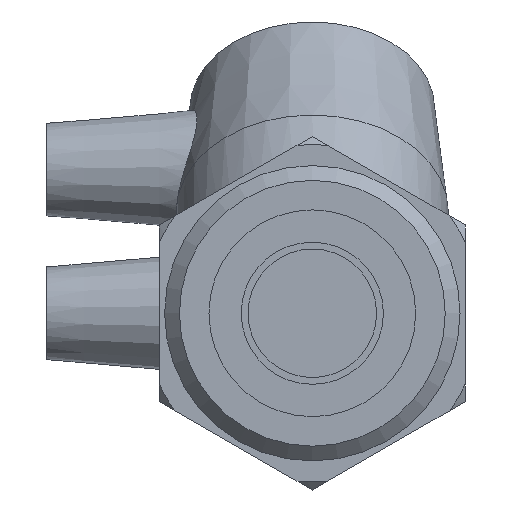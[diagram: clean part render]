
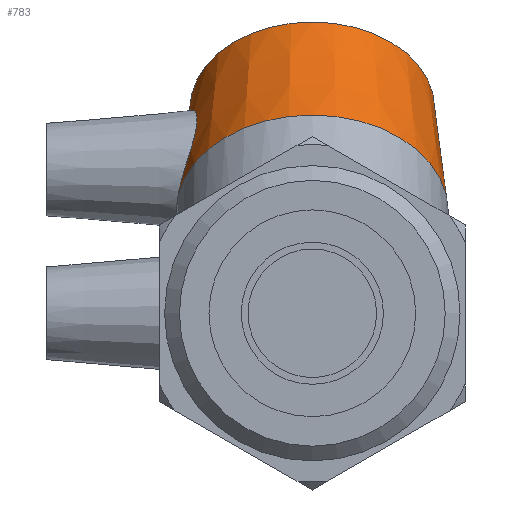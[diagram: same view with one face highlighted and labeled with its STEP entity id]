
A CAD part, left-side view. The second image highlights one B-rep face of the part: STEP entity #783.
In plain terms, the highlighted conical face has half-angle 5.348 degrees and reference radius 20.9 mm.
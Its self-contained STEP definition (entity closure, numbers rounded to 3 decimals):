
#15=B_SPLINE_CURVE_WITH_KNOTS('',3,(#1400,#1401,#1402,#1403,#1404,#1405,
#1406,#1407,#1408,#1409,#1410,#1411,#1412,#1413,#1414,#1415,#1416,#1417,
#1418,#1419,#1420,#1421,#1422,#1423,#1424,#1425,#1426,#1427,#1428,#1429,
#1430,#1431,#1432,#1433),.UNSPECIFIED.,.T.,.F.,(4,2,2,2,2,2,2,2,2,2,2,2,
2,2,2,2,4),(0.,0.35,0.7,1.054,1.407,
1.761,2.114,2.465,2.815,3.199,
3.584,3.957,4.33,4.703,5.076,
5.461,5.846),.UNSPECIFIED.);
#141=FACE_BOUND('',#285,.T.);
#142=FACE_BOUND('',#286,.T.);
#202=FACE_OUTER_BOUND('',#284,.T.);
#284=EDGE_LOOP('',(#689));
#285=EDGE_LOOP('',(#690));
#286=EDGE_LOOP('',(#691));
#347=CIRCLE('',#874,22.);
#351=CIRCLE('',#885,19.8);
#420=VERTEX_POINT('',#1395);
#421=VERTEX_POINT('',#1399);
#425=VERTEX_POINT('',#1445);
#513=EDGE_CURVE('',#420,#420,#347,.T.);
#515=EDGE_CURVE('',#421,#421,#15,.T.);
#519=EDGE_CURVE('',#425,#425,#351,.T.);
#689=ORIENTED_EDGE('',*,*,#513,.F.);
#690=ORIENTED_EDGE('',*,*,#515,.T.);
#691=ORIENTED_EDGE('',*,*,#519,.T.);
#733=CONICAL_SURFACE('',#886,20.9,5.348);
#783=ADVANCED_FACE('',(#202,#141,#142),#733,.T.);
#874=AXIS2_PLACEMENT_3D('',#1396,#1076,#1077);
#885=AXIS2_PLACEMENT_3D('',#1446,#1098,#1099);
#886=AXIS2_PLACEMENT_3D('',#1447,#1100,#1101);
#1076=DIRECTION('center_axis',(-0.707,0.,
-0.707));
#1077=DIRECTION('ref_axis',(-0.707,0.,0.707));
#1098=DIRECTION('center_axis',(-0.707,0.,
-0.707));
#1099=DIRECTION('ref_axis',(-0.707,0.,0.707));
#1100=DIRECTION('center_axis',(-0.707,0.,
-0.707));
#1101=DIRECTION('ref_axis',(0.,1.,0.));
#1395=CARTESIAN_POINT('',(16.52,22.,16.52));
#1396=CARTESIAN_POINT('Origin',(16.52,0.,
16.52));
#1399=CARTESIAN_POINT('',(30.399,18.742,16.808));
#1400=CARTESIAN_POINT('Ctrl Pts',(30.399,18.742,16.808));
#1401=CARTESIAN_POINT('Ctrl Pts',(31.186,18.645,17.665));
#1402=CARTESIAN_POINT('Ctrl Pts',(31.85,18.669,18.736));
#1403=CARTESIAN_POINT('Ctrl Pts',(32.691,18.922,21.045));
#1404=CARTESIAN_POINT('Ctrl Pts',(32.87,19.143,22.283));
#1405=CARTESIAN_POINT('Ctrl Pts',(32.792,19.565,24.589));
#1406=CARTESIAN_POINT('Ctrl Pts',(32.528,19.798,25.821));
#1407=CARTESIAN_POINT('Ctrl Pts',(31.537,20.127,28.098));
#1408=CARTESIAN_POINT('Ctrl Pts',(30.81,20.218,29.143));
#1409=CARTESIAN_POINT('Ctrl Pts',(29.143,20.218,30.81));
#1410=CARTESIAN_POINT('Ctrl Pts',(28.098,20.127,31.537));
#1411=CARTESIAN_POINT('Ctrl Pts',(25.821,19.798,32.528));
#1412=CARTESIAN_POINT('Ctrl Pts',(24.589,19.565,32.792));
#1413=CARTESIAN_POINT('Ctrl Pts',(22.283,19.143,32.87));
#1414=CARTESIAN_POINT('Ctrl Pts',(21.045,18.922,32.691));
#1415=CARTESIAN_POINT('Ctrl Pts',(18.736,18.669,31.85));
#1416=CARTESIAN_POINT('Ctrl Pts',(17.665,18.645,31.186));
#1417=CARTESIAN_POINT('Ctrl Pts',(15.867,18.848,29.535));
#1418=CARTESIAN_POINT('Ctrl Pts',(15.081,19.11,28.433));
#1419=CARTESIAN_POINT('Ctrl Pts',(14.052,19.807,26.03));
#1420=CARTESIAN_POINT('Ctrl Pts',(13.806,20.233,24.726));
#1421=CARTESIAN_POINT('Ctrl Pts',(13.81,20.971,22.311));
#1422=CARTESIAN_POINT('Ctrl Pts',(14.047,21.335,21.03));
#1423=CARTESIAN_POINT('Ctrl Pts',(15.032,21.843,18.644));
#1424=CARTESIAN_POINT('Ctrl Pts',(15.781,21.981,17.54));
#1425=CARTESIAN_POINT('Ctrl Pts',(17.54,21.981,15.781));
#1426=CARTESIAN_POINT('Ctrl Pts',(18.644,21.843,15.032));
#1427=CARTESIAN_POINT('Ctrl Pts',(21.03,21.335,14.047));
#1428=CARTESIAN_POINT('Ctrl Pts',(22.311,20.971,13.81));
#1429=CARTESIAN_POINT('Ctrl Pts',(24.726,20.233,13.806));
#1430=CARTESIAN_POINT('Ctrl Pts',(26.03,19.807,14.052));
#1431=CARTESIAN_POINT('Ctrl Pts',(28.433,19.11,15.081));
#1432=CARTESIAN_POINT('Ctrl Pts',(29.535,18.848,15.867));
#1433=CARTESIAN_POINT('Ctrl Pts',(30.399,18.742,16.808));
#1445=CARTESIAN_POINT('',(33.137,19.8,33.137));
#1446=CARTESIAN_POINT('Origin',(33.137,0.,33.137));
#1447=CARTESIAN_POINT('Origin',(24.828,0.,
24.828));
